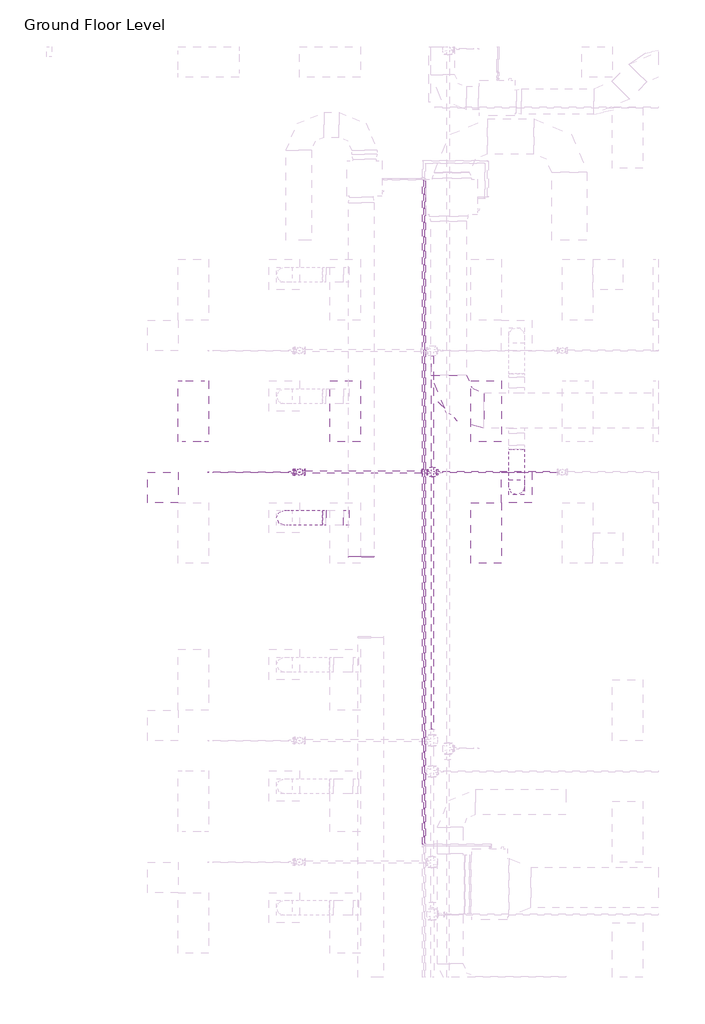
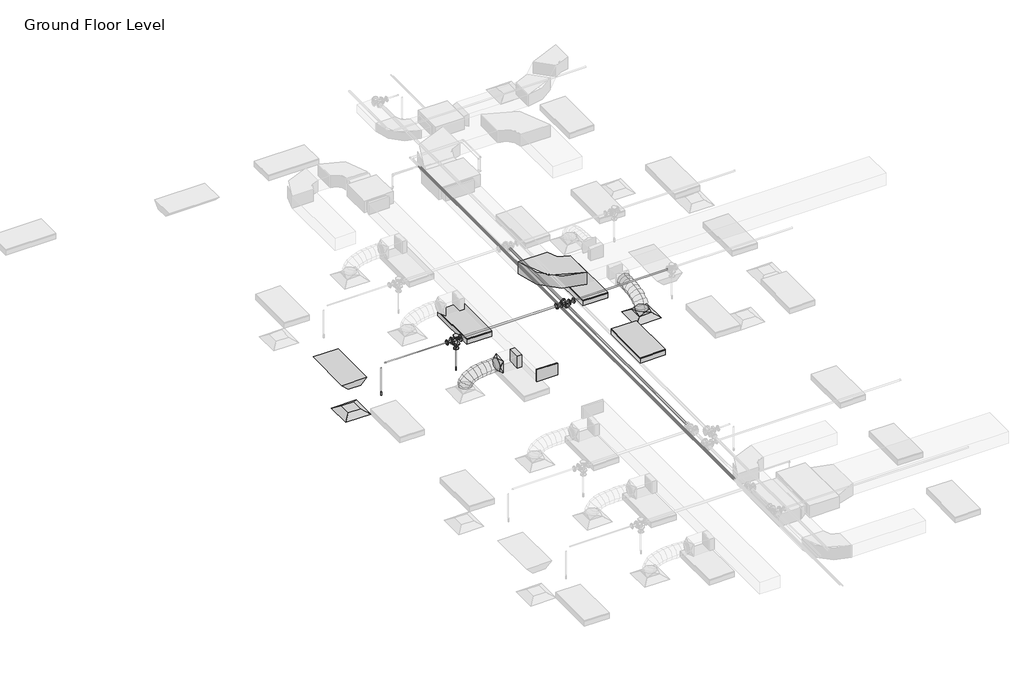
# One storey, part 29 of 74: 9 pipe segments, 6 pipe fittings, 5 duct fittings, 4 light fixtures, 2 air terminals, 2 duct segments, 2 fire suppression terminals.
"""IFC4 building model written with IfcOpenShell, lengths in millimetres."""

from ifc_helpers import new_model, si_unit, point, frame, frame_2d, origin, place, context, project, spatial, circle_curve, ellipse_curve, trimmed, segment, composite_curve, outline, extrude, transform, mapped, element, save
from ifc_brep_helpers import plane_surface, cylinder_surface, advanced_brep
from components import m_return_diffuser_600_x_600_face_300_x_300_connection_ff221211, m_rectangular_elbow_radius_1_w_8a62b27e, m_rectangular_endcap_standard_72d4d00d, m_rectangular_takeoff_standard_2be5eba1, m_rectangular_to_round_transition_angle_45_degree_641efff0, m_sprinkler_dry_pendent_hosted_15_mm_dry_pendent_9bda8e11, m_emergency_recessed_lighting_fixture_600x1200_277_5b10b25d, m_troffer_light_parabolic_rectangular1_0600x1200mm_4_lamp_86473d4a, m_cross_flanged_cs_class_150_standard_46ec961b, m_reducer_flanged_cs_class_150_standard_b6b67c23, m_reducer_flanged_cs_class_150_standard_83138b42, m_reducer_flanged_cs_class_150_standard_dc68ad9d, m_reducer_flanged_cs_class_150_standard_84a20e65, m_tee_round_base_flanged_cs_class_150_standard_ab36f383

model = new_model("IFC4")

# Units and contexts
model_context = context("Model", 3, world=origin())
ifc_project = project(units=[si_unit("LENGTHUNIT", "METRE", prefix="MILLI")], contexts=[model_context])

# Site, building, storey
site = spatial("IfcSite", under=ifc_project)
building = spatial("IfcBuilding", under=site)
storey = spatial("IfcBuildingStorey", under=building, Name="Ground Floor Level", Elevation=900.0)

# Air terminals
placement = place(None, origin())
m_return_diffuser_600_x_600_face_300_x_300_connection_shape = m_return_diffuser_600_x_600_face_300_x_300_connection_ff221211(model_context)
element("IfcAirTerminal", 1, ObjectType="M_Return Diffuser : 600 x 600 Face 300 x 300 Connection", at=placement, inside=storey, context=model_context, shape_type="MappedRepresentation", body=[
    mapped(m_return_diffuser_600_x_600_face_300_x_300_connection_shape, transform((362.7672395, -13664.7846466, 3650.0), x_axis=(1.0, 0.0, 0.0), y_axis=(0.0, 1.0, 0.0), z_axis=(0.0, 0.0, 1.0))),
])
element("IfcAirTerminal", 2, ObjectType="M_Supply Diffuser : 600 x 600 Face 300 x 300 Connection", at=placement, inside=storey, context=model_context, shape_type="MappedRepresentation", body=[
    mapped(m_return_diffuser_600_x_600_face_300_x_300_connection_shape, transform((7352.7672395, -13664.7846466, 3650.0), x_axis=(1.0, 0.0, 0.0), y_axis=(0.0, 1.0, 0.0), z_axis=(0.0, 0.0, 1.0))),
])

# Duct fittings
m_rectangular_elbow_radius_1_w_shape = m_rectangular_elbow_radius_1_w_8a62b27e(model_context)
element("IfcDuctFitting", 3, ObjectType="M_Rectangular Elbow - Radius : 1 W", at=placement, inside=storey, context=model_context, shape_type="MappedRepresentation", body=[
    mapped(m_rectangular_elbow_radius_1_w_shape, transform((6009.9139492, -12149.3358641, 4099.9875), x_axis=(0.0, -0.9999999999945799, -3.2924882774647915e-06), y_axis=(1.0000000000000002, 0.0, 0.0), z_axis=(0.0, -3.2924882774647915e-06, 0.9999999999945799))),
])
m_rectangular_endcap_standard_shape = m_rectangular_endcap_standard_72d4d00d(model_context)
element("IfcDuctFitting", 4, ObjectType="M_Rectangular Endcap : Standard", at=placement, inside=storey, context=model_context, shape_type="MappedRepresentation", body=[
    mapped(m_rectangular_endcap_standard_shape, transform((4282.1581888, -15020.4566353, 4099.9874218), x_axis=(0.0, -0.9999999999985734, -1.689189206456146e-06), y_axis=(1.0, 0.0, 0.0), z_axis=(0.0, -1.689189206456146e-06, 0.9999999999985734))),
])
m_rectangular_takeoff_standard_shape = m_rectangular_takeoff_standard_2be5eba1(model_context)
element("IfcDuctFitting", 5, ObjectType="M_Rectangular Takeoff : Standard", at=placement, inside=storey, context=model_context, shape_type="MappedRepresentation", body=[
    mapped(m_rectangular_takeoff_standard_shape, transform((4032.1581888, -14264.7846466, 4099.9887842), x_axis=(-1.0, 0.0, 0.0), y_axis=(0.0, 1.0, 0.0), z_axis=(0.0, 0.0, -1.0))),
])
m_rectangular_to_round_transition_angle_45_degree_shape = m_rectangular_to_round_transition_angle_45_degree_641efff0(model_context)
element("IfcDuctFitting", 6, ObjectType="M_Rectangular to Round Transition - Angle : 45 Degree", at=placement, inside=storey, context=model_context, shape_type="MappedRepresentation", body=[
    mapped(m_rectangular_to_round_transition_angle_45_degree_shape, transform((3590.1143866, -14264.7846466, 4099.9887842), x_axis=(-1.0, 0.0, 0.0), y_axis=(0.0, -1.0, 0.0), z_axis=(0.0, 0.0, 1.0))),
])
element("IfcDuctFitting", 7, ObjectType="M_Rectangular to Round Transition - Angle : 45 Degree", at=placement, inside=storey, context=model_context, shape_type="MappedRepresentation", body=[
    mapped(m_rectangular_to_round_transition_angle_45_degree_shape, transform((7352.7672395, -13664.7846466, 3751.6), x_axis=(0.0, 0.0, 1.0), y_axis=(-1.0, 0.0, 0.0), z_axis=(0.0, -1.0, 0.0))),
])

# Duct segments
element("IfcDuctSegment", 8, ObjectType="Flex - Round", at=placement, inside=storey, context=model_context, shape_type="AdvancedBrep", body=[
    advanced_brep(
    [(2912.7672395, -14264.7846466, 3826.6), (2762.7672395, -14414.7846466, 3826.6), (2612.7672395, -14264.7846466, 3826.6), (2762.7672395, -14114.7846466, 3826.6), (2912.7672395, -14264.7846466, 3832.2943846), (2762.7672395, -14414.7846466, 3857.9381822), (2612.7672395, -14264.7846466, 3883.5819799), (2762.7672395, -14114.7846466, 3857.9381822), (2913.5207556, -14264.7846466, 3834.4337709), (2779.783483, -14414.7846466, 3906.2507773), (2646.0462104, -14264.7846466, 3978.0677838), (2779.783483, -14114.7846466, 3906.2507773), (2931.1721896, -14264.7846466, 3857.7995724), (2826.9682101, -14414.7846466, 3968.7107998), (2722.7642305, -14264.7846466, 4079.6220272), (2826.9682101, -14114.7846466, 3968.7107998), (2967.4564457, -14264.7846466, 3881.8128947), (2898.5254153, -14414.7846466, 4016.0681503), (2829.5943848, -14264.7846466, 4150.3234058), (2898.5254153, -14114.7846466, 4016.0681503), (3032.2165497, -14264.7846466, 3906.4878092), (2988.6590932, -14414.7846466, 4050.4109116), (2945.1016367, -14264.7846466, 4194.334014), (2988.6590932, -14114.7846466, 4050.4109116), (3118.131028, -14264.7846466, 3926.0360972), (3091.5732386, -14414.7846466, 4073.8271669), (3065.0154491, -14264.7846466, 4221.6182365), (3091.5732386, -14114.7846466, 4073.8271669), (3216.6200238, -14264.7846466, 3939.1004669), (3201.4718459, -14414.7846466, 4088.4049988), (3186.3236681, -14264.7846466, 4237.7095308), (3201.4718459, -14114.7846466, 4088.4049988), (3320.0621185, -14264.7846466, 3946.3892735), (3312.55891, -14414.7846466, 4096.2324904), (3305.0557014, -14264.7846466, 4246.0757073), (3312.55891, -14114.7846466, 4096.2324904), (3421.7286729, -14264.7846466, 3949.4114365), (3419.0384253, -14414.7846466, 4099.3977246), (3416.3481777, -14264.7846466, 4249.3840127), (3419.0384253, -14114.7846466, 4099.3977246), (3516.0371696, -14264.7846466, 3949.9916227), (3515.1143866, -14414.7846466, 4099.9887842), (3514.1916035, -14264.7846466, 4249.9859457), (3515.1143866, -14114.7846466, 4099.9887842)],
    [
        (0, 1, circle_curve(frame((2762.7672395, -14264.7846466, 3826.6), z_axis=(0.0, 0.0, -1.0), x_axis=(1.0, 0.0, 0.0)), 150.0)),
        (1, 2, circle_curve(frame((2762.7672395, -14264.7846466, 3826.6), z_axis=(0.0, 0.0, -1.0), x_axis=(1.0, 0.0, 0.0)), 150.0)),
        (2, 3, circle_curve(frame((2762.7672395, -14264.7846466, 3826.6), z_axis=(0.0, 0.0, -1.0), x_axis=(1.0, 0.0, 0.0)), 150.0)),
        (3, 0, circle_curve(frame((2762.7672395, -14264.7846466, 3826.6), z_axis=(0.0, 0.0, -1.0), x_axis=(1.0, 0.0, 0.0)), 150.0)),
        (0, 4),
        (4, 5, ellipse_curve(frame((2762.7672395, -14264.7846466, 3857.9381822), z_axis=(-0.1685138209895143, 0.0, -0.9856992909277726), x_axis=(0.9856992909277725, 0.0, -0.16851382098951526)), 152.176228, 150.0)),
        (5, 1),
        (5, 6, ellipse_curve(frame((2762.7672395, -14264.7846466, 3857.9381822), z_axis=(-0.1685138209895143, 0.0, -0.9856992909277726), x_axis=(0.9856992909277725, 0.0, -0.16851382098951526)), 152.176228, 150.0)),
        (6, 2),
        (6, 7, ellipse_curve(frame((2762.7672395, -14264.7846466, 3857.9381822), z_axis=(-0.1685138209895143, 0.0, -0.9856992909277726), x_axis=(0.9856992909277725, 0.0, -0.16851382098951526)), 152.176228, 150.0)),
        (7, 3),
        (7, 4, ellipse_curve(frame((2762.7672395, -14264.7846466, 3857.9381822), z_axis=(-0.1685138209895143, 0.0, -0.9856992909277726), x_axis=(0.9856992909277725, 0.0, -0.16851382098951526)), 152.176228, 150.0)),
        (4, 8),
        (8, 9, ellipse_curve(frame((2779.783483, -14264.7846466, 3906.2507773), z_axis=(-0.47310177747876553, 0.0, -0.881007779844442), x_axis=(0.8810077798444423, 0.0, -0.4731017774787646)), 151.800331, 150.0)),
        (9, 5),
        (9, 10, ellipse_curve(frame((2779.783483, -14264.7846466, 3906.2507773), z_axis=(-0.47310177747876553, 0.0, -0.881007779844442), x_axis=(0.8810077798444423, 0.0, -0.4731017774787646)), 151.800331, 150.0)),
        (10, 6),
        (10, 11, ellipse_curve(frame((2779.783483, -14264.7846466, 3906.2507773), z_axis=(-0.47310177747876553, 0.0, -0.881007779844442), x_axis=(0.8810077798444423, 0.0, -0.4731017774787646)), 151.800331, 150.0)),
        (11, 7),
        (11, 8, ellipse_curve(frame((2779.783483, -14264.7846466, 3906.2507773), z_axis=(-0.47310177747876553, 0.0, -0.881007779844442), x_axis=(0.8810077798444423, 0.0, -0.4731017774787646)), 151.800331, 150.0)),
        (8, 12),
        (12, 13, ellipse_curve(frame((2826.9682101, -14264.7846466, 3968.7107998), z_axis=(-0.7288000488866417, 0.0, -0.6847265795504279), x_axis=(0.6847265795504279, 0.0, -0.7288000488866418)), 152.1833424, 150.0)),
        (13, 9),
        (13, 14, ellipse_curve(frame((2826.9682101, -14264.7846466, 3968.7107998), z_axis=(-0.7288000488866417, 0.0, -0.6847265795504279), x_axis=(0.6847265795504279, 0.0, -0.7288000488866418)), 152.1833424, 150.0)),
        (14, 10),
        (14, 15, ellipse_curve(frame((2826.9682101, -14264.7846466, 3968.7107998), z_axis=(-0.7288000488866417, 0.0, -0.6847265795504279), x_axis=(0.6847265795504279, 0.0, -0.7288000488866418)), 152.1833424, 150.0)),
        (15, 11),
        (15, 12, ellipse_curve(frame((2826.9682101, -14264.7846466, 3968.7107998), z_axis=(-0.7288000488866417, 0.0, -0.6847265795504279), x_axis=(0.6847265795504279, 0.0, -0.7288000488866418)), 152.1833424, 150.0)),
        (12, 16),
        (16, 17, ellipse_curve(frame((2898.5254153, -14264.7846466, 4016.0681503), z_axis=(-0.8895962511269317, 0.0, -0.45674775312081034), x_axis=(0.45674775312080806, 0.0, -0.889596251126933)), 150.9170653, 150.0)),
        (17, 13),
        (17, 18, ellipse_curve(frame((2898.5254153, -14264.7846466, 4016.0681503), z_axis=(-0.8895962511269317, 0.0, -0.45674775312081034), x_axis=(0.45674775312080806, 0.0, -0.889596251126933)), 150.9170653, 150.0)),
        (18, 14),
        (18, 19, ellipse_curve(frame((2898.5254153, -14264.7846466, 4016.0681503), z_axis=(-0.8895962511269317, 0.0, -0.45674775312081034), x_axis=(0.45674775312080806, 0.0, -0.889596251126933)), 150.9170653, 150.0)),
        (19, 15),
        (19, 16, ellipse_curve(frame((2898.5254153, -14264.7846466, 4016.0681503), z_axis=(-0.8895962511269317, 0.0, -0.45674775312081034), x_axis=(0.45674775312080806, 0.0, -0.889596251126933)), 150.9170653, 150.0)),
        (16, 20),
        (20, 21, ellipse_curve(frame((2988.6590932, -14264.7846466, 4050.4109116), z_axis=(-0.9571269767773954, 0.0, -0.28966869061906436), x_axis=(0.28966869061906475, 0.0, -0.9571269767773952)), 150.3699153, 150.0)),
        (21, 17),
        (21, 22, ellipse_curve(frame((2988.6590932, -14264.7846466, 4050.4109116), z_axis=(-0.9571269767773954, 0.0, -0.28966869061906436), x_axis=(0.28966869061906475, 0.0, -0.9571269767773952)), 150.3699153, 150.0)),
        (22, 18),
        (22, 23, ellipse_curve(frame((2988.6590932, -14264.7846466, 4050.4109116), z_axis=(-0.9571269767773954, 0.0, -0.28966869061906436), x_axis=(0.28966869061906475, 0.0, -0.9571269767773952)), 150.3699153, 150.0)),
        (23, 19),
        (23, 20, ellipse_curve(frame((2988.6590932, -14264.7846466, 4050.4109116), z_axis=(-0.9571269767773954, 0.0, -0.28966869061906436), x_axis=(0.28966869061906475, 0.0, -0.9571269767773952)), 150.3699153, 150.0)),
        (20, 24),
        (24, 25, ellipse_curve(frame((3091.5732386, -14264.7846466, 4073.8271669), z_axis=(-0.9842350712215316, 0.0, -0.17686527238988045), x_axis=(0.1768652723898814, 0.0, -0.9842350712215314)), 150.1583046, 150.0)),
        (25, 21),
        (25, 26, ellipse_curve(frame((3091.5732386, -14264.7846466, 4073.8271669), z_axis=(-0.9842350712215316, 0.0, -0.17686527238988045), x_axis=(0.1768652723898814, 0.0, -0.9842350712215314)), 150.1583046, 150.0)),
        (26, 22),
        (26, 27, ellipse_curve(frame((3091.5732386, -14264.7846466, 4073.8271669), z_axis=(-0.9842350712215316, 0.0, -0.17686527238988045), x_axis=(0.1768652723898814, 0.0, -0.9842350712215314)), 150.1583046, 150.0)),
        (27, 23),
        (27, 24, ellipse_curve(frame((3091.5732386, -14264.7846466, 4073.8271669), z_axis=(-0.9842350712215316, 0.0, -0.17686527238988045), x_axis=(0.1768652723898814, 0.0, -0.9842350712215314)), 150.1583046, 150.0)),
        (24, 28),
        (28, 29, ellipse_curve(frame((3201.4718459, -14264.7846466, 4088.4049988), z_axis=(-0.994892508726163, 0.0, -0.10094006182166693), x_axis=(0.10094006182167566, 0.0, -0.9948925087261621)), 150.0710184, 150.0)),
        (29, 25),
        (29, 30, ellipse_curve(frame((3201.4718459, -14264.7846466, 4088.4049988), z_axis=(-0.994892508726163, 0.0, -0.10094006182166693), x_axis=(0.10094006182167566, 0.0, -0.9948925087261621)), 150.0710184, 150.0)),
        (30, 26),
        (30, 31, ellipse_curve(frame((3201.4718459, -14264.7846466, 4088.4049988), z_axis=(-0.994892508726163, 0.0, -0.10094006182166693), x_axis=(0.10094006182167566, 0.0, -0.9948925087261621)), 150.0710184, 150.0)),
        (31, 27),
        (31, 28, ellipse_curve(frame((3201.4718459, -14264.7846466, 4088.4049988), z_axis=(-0.994892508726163, 0.0, -0.10094006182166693), x_axis=(0.10094006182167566, 0.0, -0.9948925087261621)), 150.0710184, 150.0)),
        (28, 32),
        (32, 33, ellipse_curve(frame((3312.55891, -14264.7846466, 4096.2324904), z_axis=(-0.998748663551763, 0.0, -0.05001106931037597), x_axis=(0.050011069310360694, 0.0, -0.998748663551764)), 150.0309561, 150.0)),
        (33, 29),
        (33, 34, ellipse_curve(frame((3312.55891, -14264.7846466, 4096.2324904), z_axis=(-0.998748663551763, 0.0, -0.05001106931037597), x_axis=(0.050011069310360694, 0.0, -0.998748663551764)), 150.0309561, 150.0)),
        (34, 30),
        (34, 35, ellipse_curve(frame((3312.55891, -14264.7846466, 4096.2324904), z_axis=(-0.998748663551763, 0.0, -0.05001106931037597), x_axis=(0.050011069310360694, 0.0, -0.998748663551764)), 150.0309561, 150.0)),
        (35, 31),
        (35, 32, ellipse_curve(frame((3312.55891, -14264.7846466, 4096.2324904), z_axis=(-0.998748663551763, 0.0, -0.05001106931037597), x_axis=(0.050011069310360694, 0.0, -0.998748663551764)), 150.0309561, 150.0)),
        (32, 36),
        (36, 37, ellipse_curve(frame((3419.0384253, -14264.7846466, 4099.3977246), z_axis=(-0.9998391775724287, 0.0, -0.01793373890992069), x_axis=(0.017933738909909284, 1.8193051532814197e-12, -0.9998391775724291)), 150.0104131, 150.0)),
        (37, 33),
        (37, 38, ellipse_curve(frame((3419.0384253, -14264.7846466, 4099.3977246), z_axis=(-0.9998391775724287, 0.0, -0.01793373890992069), x_axis=(0.017933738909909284, 1.8193051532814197e-12, -0.9998391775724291)), 150.0104131, 150.0)),
        (38, 34),
        (38, 39, ellipse_curve(frame((3419.0384253, -14264.7846466, 4099.3977246), z_axis=(-0.9998391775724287, 0.0, -0.01793373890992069), x_axis=(0.017933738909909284, 1.8193051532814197e-12, -0.9998391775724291)), 150.0104131, 150.0)),
        (39, 35),
        (39, 36, ellipse_curve(frame((3419.0384253, -14264.7846466, 4099.3977246), z_axis=(-0.9998391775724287, 0.0, -0.01793373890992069), x_axis=(0.017933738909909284, 1.8193051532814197e-12, -0.9998391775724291)), 150.0104131, 150.0)),
        (36, 40),
        (40, 41, circle_curve(frame((3515.1143866, -14264.7846466, 4099.9887842), z_axis=(-0.9999810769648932, 0.0, -0.0061518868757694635), x_axis=(0.0061518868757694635, 0.0, -0.9999810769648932)), 150.0)),
        (41, 37),
        (41, 42, circle_curve(frame((3515.1143866, -14264.7846466, 4099.9887842), z_axis=(-0.9999810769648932, 0.0, -0.0061518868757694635), x_axis=(0.0061518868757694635, 0.0, -0.9999810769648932)), 150.0)),
        (42, 38),
        (42, 43, circle_curve(frame((3515.1143866, -14264.7846466, 4099.9887842), z_axis=(-0.9999810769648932, 0.0, -0.0061518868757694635), x_axis=(0.0061518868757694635, 0.0, -0.9999810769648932)), 150.0)),
        (43, 39),
        (43, 40, circle_curve(frame((3515.1143866, -14264.7846466, 4099.9887842), z_axis=(-0.9999810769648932, 0.0, -0.0061518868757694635), x_axis=(0.0061518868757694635, 0.0, -0.9999810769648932)), 150.0)),
    ],
    [
        plane_surface(frame((2762.7672395, -14414.7846466, 3826.6), z_axis=(0.0, 0.0, -1.0), x_axis=(1.0, 0.0, 0.0))),
        cylinder_surface(frame((2762.7672395, -14264.7846466, 3826.6), z_axis=(0.0, 0.0, -1.0), x_axis=(1.0, 0.0, 0.0)), 150.0),
        cylinder_surface(frame((2762.7672395, -14264.7846466, 3857.9381822), z_axis=(-0.33220790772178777, 0.0, -0.9432061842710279), x_axis=(0.9432061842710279, 0.0, -0.33220790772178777)), 150.0),
        cylinder_surface(frame((2779.783483, -14264.7846466, 3906.2507773), z_axis=(-0.6027738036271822, 0.0, -0.7979121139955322), x_axis=(0.7979121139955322, 0.0, -0.6027738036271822)), 150.0),
        cylinder_surface(frame((2826.9682101, -14264.7846466, 3968.7107998), z_axis=(-0.8339144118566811, 0.0, -0.5518937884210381), x_axis=(0.5518937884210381, 0.0, -0.8339144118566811)), 150.0),
        cylinder_surface(frame((2898.5254153, -14264.7846466, 4016.0681503), z_axis=(-0.9344666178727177, 0.0, -0.35605075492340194), x_axis=(0.35605075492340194, 0.0, -0.9344666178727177)), 150.0),
        cylinder_surface(frame((2988.6590932, -14264.7846466, 4050.4109116), z_axis=(-0.9750782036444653, 0.0, -0.22186143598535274), x_axis=(0.22186143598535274, 0.0, -0.9750782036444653)), 150.0),
        cylinder_surface(frame((3091.5732386, -14264.7846466, 4073.8271669), z_axis=(-0.9913166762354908, 0.0, -0.1314961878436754), x_axis=(0.1314961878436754, 0.0, -0.9913166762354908)), 150.0),
        cylinder_surface(frame((3201.4718459, -14264.7846466, 4088.4049988), z_axis=(-0.9975267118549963, 0.0, -0.07028839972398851), x_axis=(0.07028839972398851, 0.0, -0.9975267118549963)), 150.0),
        cylinder_surface(frame((3312.55891, -14264.7846466, 4096.2324904), z_axis=(-0.9995584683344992, 0.0, -0.02971310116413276), x_axis=(0.02971310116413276, 0.0, -0.9995584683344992)), 150.0),
        cylinder_surface(frame((3419.0384253, -14264.7846466, 4099.3977246), z_axis=(-0.9999810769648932, 0.0, -0.0061518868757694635), x_axis=(0.0061518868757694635, 0.0, -0.9999810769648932)), 150.0),
        plane_surface(frame((3515.1143866, -14414.7846466, 4099.9887842), z_axis=(0.9999810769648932, 0.0, 0.006151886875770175), x_axis=(0.006151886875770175, -3.666400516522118e-12, -0.9999810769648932))),
    ],
    [
        (0, [[1, 2, 3, 4]]),
        (1, [[-1, 5, 6, 7]]),
        (1, [[-2, -7, 8, 9]]),
        (1, [[-3, -9, 10, 11]]),
        (1, [[-4, -11, 12, -5]]),
        (2, [[-6, 13, 14, 15]]),
        (2, [[-8, -15, 16, 17]]),
        (2, [[-10, -17, 18, 19]]),
        (2, [[-12, -19, 20, -13]]),
        (3, [[-14, 21, 22, 23]]),
        (3, [[-16, -23, 24, 25]]),
        (3, [[-18, -25, 26, 27]]),
        (3, [[-20, -27, 28, -21]]),
        (4, [[-22, 29, 30, 31]]),
        (4, [[-24, -31, 32, 33]]),
        (4, [[-26, -33, 34, 35]]),
        (4, [[-28, -35, 36, -29]]),
        (5, [[-30, 37, 38, 39]]),
        (5, [[-32, -39, 40, 41]]),
        (5, [[-34, -41, 42, 43]]),
        (5, [[-36, -43, 44, -37]]),
        (6, [[-38, 45, 46, 47]]),
        (6, [[-40, -47, 48, 49]]),
        (6, [[-42, -49, 50, 51]]),
        (6, [[-44, -51, 52, -45]]),
        (7, [[-46, 53, 54, 55]]),
        (7, [[-48, -55, 56, 57]]),
        (7, [[-50, -57, 58, 59]]),
        (7, [[-52, -59, 60, -53]]),
        (8, [[-54, 61, 62, 63]]),
        (8, [[-56, -63, 64, 65]]),
        (8, [[-58, -65, 66, 67]]),
        (8, [[-60, -67, 68, -61]]),
        (9, [[-62, 69, 70, 71]]),
        (9, [[-64, -71, 72, 73]]),
        (9, [[-66, -73, 74, 75]]),
        (9, [[-68, -75, 76, -69]]),
        (10, [[-70, 77, 78, 79]]),
        (10, [[-72, -79, 80, 81]]),
        (10, [[-74, -81, 82, 83]]),
        (10, [[-76, -83, 84, -77]]),
        (11, [[-84, -82, -80, -78]]),
    ],
),
])
element("IfcDuctSegment", 9, ObjectType="Flex - Round", at=placement, inside=storey, context=model_context, shape_type="AdvancedBrep", body=[
    advanced_brep(
    [(7502.7672395, -13664.7846466, 3826.6), (7352.7672395, -13814.7846466, 3826.6), (7202.7672395, -13664.7846466, 3826.6), (7352.7672395, -13514.7846466, 3826.6), (7502.7672395, -13664.7846466, 3857.9382361), (7352.7672395, -13814.7846466, 3883.5820996), (7202.7672395, -13664.7846466, 3857.9382361), (7352.7672395, -13514.7846466, 3832.2943726), (7502.7672395, -13647.7683675, 3906.2508008), (7352.7672395, -13781.5055592, 3978.0679769), (7202.7672395, -13647.7683675, 3906.2508008), (7352.7672395, -13514.0311758, 3834.4336246), (7502.7672395, -13600.5835435, 3968.710741), (7352.7672395, -13704.7873032, 4079.6221903), (7202.7672395, -13600.5835435, 3968.710741), (7352.7672395, -13496.3797837, 3857.7992917), (7502.7672395, -13529.0261948, 4016.0679312), (7352.7672395, -13597.9568789, 4150.3233665), (7202.7672395, -13529.0261948, 4016.0679312), (7352.7672395, -13460.0955107, 3881.8124958), (7502.7672395, -13438.8923417, 4050.4104815), (7352.7672395, -13482.4494195, 4194.3336978), (7202.7672395, -13438.8923417, 4050.4104815), (7352.7672395, -13395.3352638, 3906.4872652), (7502.7672395, -13335.9780043, 4073.8265025), (7352.7672395, -13362.5354348, 4221.6176356), (7202.7672395, -13335.9780043, 4073.8265025), (7352.7672395, -13309.4205737, 3926.0353694), (7502.7672395, -13226.0792027, 4088.4041045), (7352.7672395, -13241.2270687, 4237.7086671), (7202.7672395, -13226.0792027, 4088.4041045), (7352.7672395, -13210.9313368, 3939.0995418), (7502.7672395, -13114.9919573, 4096.2313978), (7352.7672395, -13122.4949231, 4246.074626), (7202.7672395, -13114.9919573, 4096.2313978), (7352.7672395, -13107.4889914, 3946.3881695), (7502.7672395, -13008.5122881, 4099.3964928), (7352.7672395, -13011.2023931, 4249.3827828), (7202.7672395, -13008.5122881, 4099.3964928), (7352.7672395, -13005.8221831, 3949.4102029), (7502.7672395, -12912.4362153, 4099.9875), (7352.7672395, -12911.5135153, 3949.9903379), (7202.7672395, -12912.4362153, 4099.9875), (7352.7672395, -12913.3589154, 4249.9846621)],
    [
        (0, 1, circle_curve(frame((7352.7672395, -13664.7846466, 3826.6), z_axis=(0.0, 0.0, -1.0), x_axis=(1.0, 0.0, 0.0)), 150.0)),
        (1, 2, circle_curve(frame((7352.7672395, -13664.7846466, 3826.6), z_axis=(0.0, 0.0, -1.0), x_axis=(1.0, 0.0, 0.0)), 150.0)),
        (2, 3, circle_curve(frame((7352.7672395, -13664.7846466, 3826.6), z_axis=(0.0, 0.0, -1.0), x_axis=(1.0, 0.0, 0.0)), 150.0)),
        (3, 0, circle_curve(frame((7352.7672395, -13664.7846466, 3826.6), z_axis=(0.0, 0.0, -1.0), x_axis=(1.0, 0.0, 0.0)), 150.0)),
        (0, 4),
        (4, 5, ellipse_curve(frame((7352.7672395, -13664.7846466, 3857.9382361), z_axis=(0.0, -0.16851424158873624, -0.9856992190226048), x_axis=(0.0, 0.9856992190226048, -0.16851424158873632)), 152.1762391, 150.0)),
        (5, 1),
        (5, 6, ellipse_curve(frame((7352.7672395, -13664.7846466, 3857.9382361), z_axis=(0.0, -0.16851424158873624, -0.9856992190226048), x_axis=(0.0, 0.9856992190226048, -0.16851424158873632)), 152.1762391, 150.0)),
        (6, 2),
        (6, 7, ellipse_curve(frame((7352.7672395, -13664.7846466, 3857.9382361), z_axis=(0.0, -0.16851424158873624, -0.9856992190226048), x_axis=(0.0, 0.9856992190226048, -0.16851424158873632)), 152.1762391, 150.0)),
        (7, 3),
        (7, 4, ellipse_curve(frame((7352.7672395, -13664.7846466, 3857.9382361), z_axis=(0.0, -0.16851424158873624, -0.9856992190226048), x_axis=(0.0, 0.9856992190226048, -0.16851424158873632)), 152.1762391, 150.0)),
        (4, 8),
        (8, 9, ellipse_curve(frame((7352.7672395, -13647.7683675, 3906.2508008), z_axis=(0.0, -0.4731028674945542, -0.8810071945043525), x_axis=(0.0, 0.8810071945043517, -0.47310286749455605)), 151.80034, 150.0)),
        (9, 5),
        (9, 10, ellipse_curve(frame((7352.7672395, -13647.7683675, 3906.2508008), z_axis=(0.0, -0.4731028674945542, -0.8810071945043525), x_axis=(0.0, 0.8810071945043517, -0.47310286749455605)), 151.80034, 150.0)),
        (10, 6),
        (10, 11, ellipse_curve(frame((7352.7672395, -13647.7683675, 3906.2508008), z_axis=(0.0, -0.4731028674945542, -0.8810071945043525), x_axis=(0.0, 0.8810071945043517, -0.47310286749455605)), 151.80034, 150.0)),
        (11, 7),
        (11, 8, ellipse_curve(frame((7352.7672395, -13647.7683675, 3906.2508008), z_axis=(0.0, -0.4731028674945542, -0.8810071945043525), x_axis=(0.0, 0.8810071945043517, -0.47310286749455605)), 151.80034, 150.0)),
        (8, 12),
        (12, 13, ellipse_curve(frame((7352.7672395, -13600.5835435, 3968.710741), z_axis=(0.0, -0.728801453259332, -0.6847250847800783), x_axis=(0.0, 0.6847250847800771, -0.7288014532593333)), 152.1833536, 150.0)),
        (13, 9),
        (13, 14, ellipse_curve(frame((7352.7672395, -13600.5835435, 3968.710741), z_axis=(0.0, -0.728801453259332, -0.6847250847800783), x_axis=(0.0, 0.6847250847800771, -0.7288014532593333)), 152.1833536, 150.0)),
        (14, 10),
        (14, 15, ellipse_curve(frame((7352.7672395, -13600.5835435, 3968.710741), z_axis=(0.0, -0.728801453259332, -0.6847250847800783), x_axis=(0.0, 0.6847250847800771, -0.7288014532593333)), 152.1833536, 150.0)),
        (15, 11),
        (15, 12, ellipse_curve(frame((7352.7672395, -13600.5835435, 3968.710741), z_axis=(0.0, -0.728801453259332, -0.6847250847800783), x_axis=(0.0, 0.6847250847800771, -0.7288014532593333)), 152.1833536, 150.0)),
        (12, 16),
        (16, 17, ellipse_curve(frame((7352.7672395, -13529.0261948, 4016.0679312), z_axis=(0.0, -0.889597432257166, -0.45674545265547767), x_axis=(0.0, 0.4567454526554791, -0.8895974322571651)), 150.9170671, 150.0)),
        (17, 13),
        (17, 18, ellipse_curve(frame((7352.7672395, -13529.0261948, 4016.0679312), z_axis=(0.0, -0.889597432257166, -0.45674545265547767), x_axis=(0.0, 0.4567454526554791, -0.8895974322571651)), 150.9170671, 150.0)),
        (18, 14),
        (18, 19, ellipse_curve(frame((7352.7672395, -13529.0261948, 4016.0679312), z_axis=(0.0, -0.889597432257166, -0.45674545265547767), x_axis=(0.0, 0.4567454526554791, -0.8895974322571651)), 150.9170671, 150.0)),
        (19, 15),
        (19, 16, ellipse_curve(frame((7352.7672395, -13529.0261948, 4016.0679312), z_axis=(0.0, -0.889597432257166, -0.45674545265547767), x_axis=(0.0, 0.4567454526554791, -0.8895974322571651)), 150.9170671, 150.0)),
        (16, 20),
        (20, 21, ellipse_curve(frame((7352.7672395, -13438.8923417, 4050.4104815), z_axis=(0.0, -0.9571277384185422, -0.28966617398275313), x_axis=(0.0, 0.28966617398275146, -0.9571277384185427)), 150.3699146, 150.0)),
        (21, 17),
        (21, 22, ellipse_curve(frame((7352.7672395, -13438.8923417, 4050.4104815), z_axis=(0.0, -0.9571277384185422, -0.28966617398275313), x_axis=(0.0, 0.28966617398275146, -0.9571277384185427)), 150.3699146, 150.0)),
        (22, 18),
        (22, 23, ellipse_curve(frame((7352.7672395, -13438.8923417, 4050.4104815), z_axis=(0.0, -0.9571277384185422, -0.28966617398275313), x_axis=(0.0, 0.28966617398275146, -0.9571277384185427)), 150.3699146, 150.0)),
        (23, 19),
        (23, 20, ellipse_curve(frame((7352.7672395, -13438.8923417, 4050.4104815), z_axis=(0.0, -0.9571277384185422, -0.28966617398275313), x_axis=(0.0, 0.28966617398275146, -0.9571277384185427)), 150.3699146, 150.0)),
        (20, 24),
        (24, 25, ellipse_curve(frame((7352.7672395, -13335.9780043, 4073.8265025), z_axis=(0.0, -0.9842355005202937, -0.17686288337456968), x_axis=(0.0, 0.17686288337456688, -0.9842355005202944)), 150.1583036, 150.0)),
        (25, 21),
        (25, 26, ellipse_curve(frame((7352.7672395, -13335.9780043, 4073.8265025), z_axis=(0.0, -0.9842355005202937, -0.17686288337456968), x_axis=(0.0, 0.17686288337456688, -0.9842355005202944)), 150.1583036, 150.0)),
        (26, 22),
        (26, 27, ellipse_curve(frame((7352.7672395, -13335.9780043, 4073.8265025), z_axis=(0.0, -0.9842355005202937, -0.17686288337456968), x_axis=(0.0, 0.17686288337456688, -0.9842355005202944)), 150.1583036, 150.0)),
        (27, 23),
        (27, 24, ellipse_curve(frame((7352.7672395, -13335.9780043, 4073.8265025), z_axis=(0.0, -0.9842355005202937, -0.17686288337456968), x_axis=(0.0, 0.17686288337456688, -0.9842355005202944)), 150.1583036, 150.0)),
        (24, 28),
        (28, 29, ellipse_curve(frame((7352.7672395, -13226.0792027, 4088.4041045), z_axis=(0.0, -0.9948927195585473, -0.10093798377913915), x_axis=(0.0, 0.10093798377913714, -0.9948927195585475)), 150.0710174, 150.0)),
        (29, 25),
        (29, 30, ellipse_curve(frame((7352.7672395, -13226.0792027, 4088.4041045), z_axis=(0.0, -0.9948927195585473, -0.10093798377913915), x_axis=(0.0, 0.10093798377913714, -0.9948927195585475)), 150.0710174, 150.0)),
        (30, 26),
        (30, 31, ellipse_curve(frame((7352.7672395, -13226.0792027, 4088.4041045), z_axis=(0.0, -0.9948927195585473, -0.10093798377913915), x_axis=(0.0, 0.10093798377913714, -0.9948927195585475)), 150.0710174, 150.0)),
        (31, 27),
        (31, 28, ellipse_curve(frame((7352.7672395, -13226.0792027, 4088.4041045), z_axis=(0.0, -0.9948927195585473, -0.10093798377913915), x_axis=(0.0, 0.10093798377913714, -0.9948927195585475)), 150.0710174, 150.0)),
        (28, 32),
        (32, 33, ellipse_curve(frame((7352.7672395, -13114.9919573, 4096.2313978), z_axis=(0.0, -0.9987487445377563, -0.050009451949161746), x_axis=(0.0, 0.05000945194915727, -0.9987487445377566)), 150.0309553, 150.0)),
        (33, 29),
        (33, 34, ellipse_curve(frame((7352.7672395, -13114.9919573, 4096.2313978), z_axis=(0.0, -0.9987487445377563, -0.050009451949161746), x_axis=(0.0, 0.05000945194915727, -0.9987487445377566)), 150.0309553, 150.0)),
        (34, 30),
        (34, 35, ellipse_curve(frame((7352.7672395, -13114.9919573, 4096.2313978), z_axis=(0.0, -0.9987487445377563, -0.050009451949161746), x_axis=(0.0, 0.05000945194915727, -0.9987487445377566)), 150.0309553, 150.0)),
        (35, 31),
        (35, 32, ellipse_curve(frame((7352.7672395, -13114.9919573, 4096.2313978), z_axis=(0.0, -0.9987487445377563, -0.050009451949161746), x_axis=(0.0, 0.05000945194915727, -0.9987487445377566)), 150.0309553, 150.0)),
        (32, 36),
        (36, 37, ellipse_curve(frame((7352.7672395, -13008.5122881, 4099.3964928), z_axis=(0.0, -0.9998391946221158, -0.017932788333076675), x_axis=(0.0, 0.01793278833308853, -0.9998391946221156)), 150.0104124, 150.0)),
        (37, 33),
        (37, 38, ellipse_curve(frame((7352.7672395, -13008.5122881, 4099.3964928), z_axis=(0.0, -0.9998391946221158, -0.017932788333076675), x_axis=(0.0, 0.01793278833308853, -0.9998391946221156)), 150.0104124, 150.0)),
        (38, 34),
        (38, 39, ellipse_curve(frame((7352.7672395, -13008.5122881, 4099.3964928), z_axis=(0.0, -0.9998391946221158, -0.017932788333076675), x_axis=(0.0, 0.01793278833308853, -0.9998391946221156)), 150.0104124, 150.0)),
        (39, 35),
        (39, 36, ellipse_curve(frame((7352.7672395, -13008.5122881, 4099.3964928), z_axis=(0.0, -0.9998391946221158, -0.017932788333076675), x_axis=(0.0, 0.01793278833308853, -0.9998391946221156)), 150.0104124, 150.0)),
        (40, 41, circle_curve(frame((7352.7672395, -12912.4362153, 4099.9875), z_axis=(0.0, 0.9999810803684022, 0.0061513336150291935), x_axis=(1.0, 0.0, 0.0)), 150.0)),
        (41, 42, circle_curve(frame((7352.7672395, -12912.4362153, 4099.9875), z_axis=(0.0, 0.9999810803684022, 0.0061513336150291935), x_axis=(1.0, 0.0, 0.0)), 150.0)),
        (42, 43, circle_curve(frame((7352.7672395, -12912.4362153, 4099.9875), z_axis=(0.0, 0.9999810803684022, 0.0061513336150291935), x_axis=(1.0, 0.0, 0.0)), 150.0)),
        (43, 40, circle_curve(frame((7352.7672395, -12912.4362153, 4099.9875), z_axis=(0.0, 0.9999810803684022, 0.0061513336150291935), x_axis=(1.0, 0.0, 0.0)), 150.0)),
        (36, 40),
        (43, 37),
        (42, 38),
        (41, 39),
    ],
    [
        plane_surface(frame((7352.7672395, -13814.7846466, 3826.6), z_axis=(0.0, 0.0, -1.0), x_axis=(1.0, 0.0, 0.0))),
        cylinder_surface(frame((7352.7672395, -13664.7846466, 3826.6), z_axis=(0.0, 0.0, -1.0), x_axis=(1.0, 0.0, 0.0)), 150.0),
        cylinder_surface(frame((7352.7672395, -13664.7846466, 3857.9382361), z_axis=(0.0, -0.3322087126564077, -0.943205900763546), x_axis=(1.0, 0.0, 0.0)), 150.0),
        cylinder_surface(frame((7352.7672395, -13647.7683675, 3906.2508008), z_axis=(0.0, -0.6027750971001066, -0.797911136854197), x_axis=(1.0, 0.0, 0.0)), 150.0),
        cylinder_surface(frame((7352.7672395, -13600.5835435, 3968.710741), z_axis=(0.0, -0.8339157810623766, -0.5518917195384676), x_axis=(1.0, 0.0, 0.0)), 150.0),
        cylinder_surface(frame((7352.7672395, -13529.0261948, 4016.0679312), z_axis=(0.0, -0.9344675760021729, -0.3560482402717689), x_axis=(1.0, 0.0, 0.0)), 150.0),
        cylinder_surface(frame((7352.7672395, -13438.8923417, 4050.4104815), z_axis=(0.0, -0.9750787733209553, -0.2218589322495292), x_axis=(1.0, 0.0, 0.0)), 150.0),
        cylinder_surface(frame((7352.7672395, -13335.9780043, 4073.8265025), z_axis=(0.0, -0.9913169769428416, -0.13149392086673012), x_axis=(1.0, 0.0, 0.0)), 150.0),
        cylinder_surface(frame((7352.7672395, -13226.0792027, 4088.4041045), z_axis=(0.0, -0.9975268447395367, -0.07028651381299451), x_axis=(1.0, 0.0, 0.0)), 150.0),
        cylinder_surface(frame((7352.7672395, -13114.9919573, 4096.2313978), z_axis=(0.0, -0.999558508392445, -0.02971175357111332), x_axis=(1.0, 0.0, 0.0)), 150.0),
        plane_surface(frame((7352.7672395, -12913.3589154, 4249.9846621), z_axis=(0.0, 0.9999810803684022, 0.006151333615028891), x_axis=(1.0, 0.0, 0.0))),
        cylinder_surface(frame((7352.7672395, -13008.5122881, 4099.3964928), z_axis=(0.0, -0.9999810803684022, -0.0061513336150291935), x_axis=(1.0, 0.0, 0.0)), 150.0),
    ],
    [
        (0, [[1, 2, 3, 4]]),
        (1, [[-1, 5, 6, 7]]),
        (1, [[-2, -7, 8, 9]]),
        (1, [[-3, -9, 10, 11]]),
        (1, [[-4, -11, 12, -5]]),
        (2, [[-6, 13, 14, 15]]),
        (2, [[-8, -15, 16, 17]]),
        (2, [[-10, -17, 18, 19]]),
        (2, [[-12, -19, 20, -13]]),
        (3, [[-14, 21, 22, 23]]),
        (3, [[-16, -23, 24, 25]]),
        (3, [[-18, -25, 26, 27]]),
        (3, [[-20, -27, 28, -21]]),
        (4, [[-22, 29, 30, 31]]),
        (4, [[-24, -31, 32, 33]]),
        (4, [[-26, -33, 34, 35]]),
        (4, [[-28, -35, 36, -29]]),
        (5, [[-30, 37, 38, 39]]),
        (5, [[-32, -39, 40, 41]]),
        (5, [[-34, -41, 42, 43]]),
        (5, [[-36, -43, 44, -37]]),
        (6, [[-38, 45, 46, 47]]),
        (6, [[-40, -47, 48, 49]]),
        (6, [[-42, -49, 50, 51]]),
        (6, [[-44, -51, 52, -45]]),
        (7, [[-46, 53, 54, 55]]),
        (7, [[-48, -55, 56, 57]]),
        (7, [[-50, -57, 58, 59]]),
        (7, [[-52, -59, 60, -53]]),
        (8, [[-54, 61, 62, 63]]),
        (8, [[-56, -63, 64, 65]]),
        (8, [[-58, -65, 66, 67]]),
        (8, [[-60, -67, 68, -61]]),
        (9, [[-62, 69, 70, 71]]),
        (9, [[-64, -71, 72, 73]]),
        (9, [[-66, -73, 74, 75]]),
        (9, [[-68, -75, 76, -69]]),
        (10, [[77, 78, 79, 80]]),
        (11, [[-70, 81, -80, 82]]),
        (11, [[-72, -82, -79, 83]]),
        (11, [[-74, -83, -78, 84]]),
        (11, [[-76, -84, -77, -81]]),
    ],
),
])

# Fire suppression terminals
m_sprinkler_dry_pendent_hosted_15_mm_dry_pendent_shape = m_sprinkler_dry_pendent_hosted_15_mm_dry_pendent_9bda8e11(model_context)
element("IfcFireSuppressionTerminal", 10, ObjectType="M_Sprinkler - Dry - Pendent - Hosted : 15 mm Dry Pendent", at=placement, inside=storey, context=model_context, shape_type="MappedRepresentation", body=[
    mapped(m_sprinkler_dry_pendent_hosted_15_mm_dry_pendent_shape, transform((3062.7672395, -13364.7846466, 3650.0), x_axis=(1.0, 0.0, 0.0), y_axis=(0.0, -1.0, 0.0), z_axis=(0.0, 0.0, -1.0))),
])
element("IfcFireSuppressionTerminal", 11, ObjectType="M_Sprinkler - Dry - Pendent - Hosted : 15 mm Dry Pendent", at=placement, inside=storey, context=model_context, shape_type="MappedRepresentation", body=[
    mapped(m_sprinkler_dry_pendent_hosted_15_mm_dry_pendent_shape, transform((1262.7672395, -13364.7846466, 3650.0), x_axis=(1.0, 0.0, 0.0), y_axis=(0.0, -1.0, 0.0), z_axis=(0.0, 0.0, -1.0))),
])

# Light fixtures
m_emergency_recessed_lighting_fixture_600x1200_277_shape = m_emergency_recessed_lighting_fixture_600x1200_277_5b10b25d(model_context)
element("IfcLightFixture", 12, ObjectType="M_Emergency Recessed Lighting Fixture : 600x1200 - 277", at=placement, inside=storey, context=model_context, shape_type="MappedRepresentation", body=[
    mapped(m_emergency_recessed_lighting_fixture_600x1200_277_shape, transform((662.7672395, -12764.7846466, 3650.0), x_axis=(0.0, 1.0, 0.0), y_axis=(-1.0, 0.0, 0.0), z_axis=(0.0, 0.0, 1.0))),
])
m_troffer_light_parabolic_rectangular1_0600x1200mm_4_lamp_shape = m_troffer_light_parabolic_rectangular1_0600x1200mm_4_lamp_86473d4a(model_context)
element("IfcLightFixture", 13, ObjectType="M_Troffer Light - Parabolic Rectangular1 : 0600x1200mm(4 Lamp) - 277V 2", at=placement, inside=storey, context=model_context, shape_type="MappedRepresentation", body=[
    mapped(m_troffer_light_parabolic_rectangular1_0600x1200mm_4_lamp_shape, transform((6693.3013074, -12146.081145, 3650.0), x_axis=(0.0, 1.0, 0.0), y_axis=(-1.0, 0.0, 0.0), z_axis=(0.0, 0.0, 1.0))),
])
element("IfcLightFixture", 14, ObjectType="M_Troffer Light - Parabolic Rectangular1 : 0600x1200mm(4 Lamp) - 277V 2", at=placement, inside=storey, context=model_context, shape_type="MappedRepresentation", body=[
    mapped(m_troffer_light_parabolic_rectangular1_0600x1200mm_4_lamp_shape, transform((6693.3013074, -14546.081145, 3650.0), x_axis=(0.0, 1.0, 0.0), y_axis=(-1.0, 0.0, 0.0), z_axis=(0.0, 0.0, 1.0))),
])
element("IfcLightFixture", 15, ObjectType="M_Troffer Light - Parabolic Rectangular1 : 0600x1200mm(4 Lamp) - 277V 2", at=placement, inside=storey, context=model_context, shape_type="MappedRepresentation", body=[
    mapped(m_troffer_light_parabolic_rectangular1_0600x1200mm_4_lamp_shape, transform((3903.3013074, -12146.081145, 3650.0), x_axis=(0.0, 1.0, 0.0), y_axis=(-1.0, 0.0, 0.0), z_axis=(0.0, 0.0, 1.0))),
])

# Pipe fittings
m_cross_flanged_cs_class_150_standard_shape = m_cross_flanged_cs_class_150_standard_46ec961b(model_context)
element("IfcPipeFitting", 16, ObjectType="M_Cross - Flanged - CS - Class 150 : Standard", at=placement, inside=storey, context=model_context, shape_type="MappedRepresentation", body=[
    mapped(m_cross_flanged_cs_class_150_standard_shape, transform((5684.6174894, -13364.7846466, 4347.5), x_axis=(0.0, -1.0, 0.0), y_axis=(-1.0, 0.0, 0.0), z_axis=(0.0, 0.0, -1.0))),
])
m_reducer_flanged_cs_class_150_standard_shape = m_reducer_flanged_cs_class_150_standard_b6b67c23(model_context)
element("IfcPipeFitting", 17, ObjectType="M_Reducer - Flanged - CS - Class 150 : Standard", at=placement, inside=storey, context=model_context, shape_type="MappedRepresentation", body=[
    mapped(m_reducer_flanged_cs_class_150_standard_shape, transform((5779.6174894, -13364.7846466, 4347.5), x_axis=(1.0, 0.0, 0.0), y_axis=(0.0, 0.0, 1.0), z_axis=(0.0, -1.0, 0.0))),
])
m_reducer_flanged_cs_class_150_standard_2_shape = m_reducer_flanged_cs_class_150_standard_83138b42(model_context)
element("IfcPipeFitting", 18, ObjectType="M_Reducer - Flanged - CS - Class 150 : Standard", at=placement, inside=storey, context=model_context, shape_type="MappedRepresentation", body=[
    mapped(m_reducer_flanged_cs_class_150_standard_2_shape, transform((2950.5086457, -13364.7846466, 4347.5), x_axis=(-1.0, 0.0, 0.0), y_axis=(0.0, -1.0, 0.0), z_axis=(0.0, 0.0, 1.0))),
])
m_reducer_flanged_cs_class_150_standard_3_shape = m_reducer_flanged_cs_class_150_standard_dc68ad9d(model_context)
element("IfcPipeFitting", 19, ObjectType="M_Reducer - Flanged - CS - Class 150 : Standard", at=placement, inside=storey, context=model_context, shape_type="MappedRepresentation", body=[
    mapped(m_reducer_flanged_cs_class_150_standard_3_shape, transform((3062.7672395, -13364.7846466, 4235.2414062), x_axis=(0.0, 0.0, -1.0), y_axis=(-1.0, 0.0, 0.0), z_axis=(0.0, 1.0, 0.0))),
])
m_reducer_flanged_cs_class_150_standard_4_shape = m_reducer_flanged_cs_class_150_standard_84a20e65(model_context)
element("IfcPipeFitting", 20, ObjectType="M_Reducer - Flanged - CS - Class 150 : Standard", at=placement, inside=storey, context=model_context, shape_type="MappedRepresentation", body=[
    mapped(m_reducer_flanged_cs_class_150_standard_4_shape, transform((5589.6174894, -13364.7846466, 4347.5), x_axis=(-1.0, 0.0, 0.0), y_axis=(0.0, -1.0, 0.0), z_axis=(0.0, 0.0, 1.0))),
])
m_tee_round_base_flanged_cs_class_150_standard_shape = m_tee_round_base_flanged_cs_class_150_standard_ab36f383(model_context)
element("IfcPipeFitting", 21, ObjectType="M_Tee Round Base - Flanged - CS - Class 150 : Standard", at=placement, inside=storey, context=model_context, shape_type="MappedRepresentation", body=[
    mapped(m_tee_round_base_flanged_cs_class_150_standard_shape, transform((3062.7672395, -13364.7846466, 4347.5), x_axis=(-1.0, 0.0, 0.0), y_axis=(0.0, 0.0, 1.0), z_axis=(0.0, 1.0, 0.0))),
])

# Pipe segments
element("IfcPipeSegment", 22, ObjectType="Copper", at=placement, inside=storey, context=model_context, shape_type="SweptSolid", body=[
    extrude(outline(composite_curve([segment(trimmed(circle_curve(frame_2d((4377.5, 5543.9904113)), 4.9), [point((4377.5, 5548.8904113))], [point((4382.4, 5543.9904113))], False, "CARTESIAN"), True, "CONTINUOUS"), segment(trimmed(circle_curve(frame_2d((4377.5, 5543.9904113)), 4.9), [point((4382.4, 5543.9904113))], [point((4377.5, 5539.0904113))], False, "CARTESIAN"), True, "CONTINUOUS"), segment(trimmed(circle_curve(frame_2d((4377.5, 5543.9904113)), 4.9), [point((4377.5, 5539.0904113))], [point((4372.6, 5543.9904113))], False, "CARTESIAN"), True, "CONTINUOUS"), segment(trimmed(circle_curve(frame_2d((4377.5, 5543.9904113)), 4.9), [point((4372.6, 5543.9904113))], [point((4377.5, 5548.8904113))], False, "CARTESIAN"), True, "CONTINUOUS")], self_intersect=False)), frame((0.0, -20687.2400492, 0.0), z_axis=(0.0, 1.0, 0.0), x_axis=(0.0, 0.0, 1.0)), (0.0, 0.0, 1.0), 13078.1459139),
])
element("IfcPipeSegment", 23, ObjectType="Copper", at=placement, inside=storey, context=model_context, shape_type="SweptSolid", body=[
    extrude(outline(composite_curve([segment(trimmed(circle_curve(frame_2d((4390.0, 5497.8951827)), 8.1), [point((4390.0, 5505.9951827))], [point((4398.1, 5497.8951827))], False, "CARTESIAN"), True, "CONTINUOUS"), segment(trimmed(circle_curve(frame_2d((4390.0, 5497.8951827)), 8.1), [point((4398.1, 5497.8951827))], [point((4390.0, 5489.7951827))], False, "CARTESIAN"), True, "CONTINUOUS"), segment(trimmed(circle_curve(frame_2d((4390.0, 5497.8951827)), 8.1), [point((4390.0, 5489.7951827))], [point((4381.9, 5497.8951827))], False, "CARTESIAN"), True, "CONTINUOUS"), segment(trimmed(circle_curve(frame_2d((4390.0, 5497.8951827)), 8.1), [point((4381.9, 5497.8951827))], [point((4390.0, 5505.9951827))], False, "CARTESIAN"), True, "CONTINUOUS")], self_intersect=False)), frame((0.0, -20716.0289893, 0.0), z_axis=(0.0, 1.0, 0.0), x_axis=(0.0, 0.0, 1.0)), (0.0, 0.0, 1.0), 13128.7473539),
])
element("IfcPipeSegment", 24, ObjectType="Steel flanged", at=placement, inside=storey, context=model_context, shape_type="SweptSolid", body=[
    extrude(outline(composite_curve([segment(trimmed(circle_curve(frame_2d((4347.5, 5684.6174894)), 21.082), [point((4347.5, 5705.6994894))], [point((4368.582, 5684.6174894))], False, "CARTESIAN"), True, "CONTINUOUS"), segment(trimmed(circle_curve(frame_2d((4347.5, 5684.6174894)), 21.082), [point((4368.582, 5684.6174894))], [point((4347.5, 5663.5354894))], False, "CARTESIAN"), True, "CONTINUOUS"), segment(trimmed(circle_curve(frame_2d((4347.5, 5684.6174894)), 21.082), [point((4347.5, 5663.5354894))], [point((4326.418, 5684.6174894))], False, "CARTESIAN"), True, "CONTINUOUS"), segment(trimmed(circle_curve(frame_2d((4347.5, 5684.6174894)), 21.082), [point((4326.418, 5684.6174894))], [point((4347.5, 5705.6994894))], False, "CARTESIAN"), True, "CONTINUOUS")], self_intersect=False)), frame((0.0, -13269.7846466, 0.0), z_axis=(0.0, 1.0, 0.0), x_axis=(0.0, 0.0, 1.0)), (0.0, 0.0, 1.0), 2198.9014062),
])
element("IfcPipeSegment", 25, ObjectType="Steel flanged", at=placement, inside=storey, context=model_context, shape_type="SweptSolid", body=[
    extrude(outline(composite_curve([segment(trimmed(circle_curve(frame_2d((1262.7672395, -13364.7846466)), 10.668), [point((1252.0992395, -13364.7846466))], [point((1262.7672395, -13354.1166466))], False, "CARTESIAN"), True, "CONTINUOUS"), segment(trimmed(circle_curve(frame_2d((1262.7672395, -13364.7846466)), 10.668), [point((1262.7672395, -13354.1166466))], [point((1273.4352395, -13364.7846466))], False, "CARTESIAN"), True, "CONTINUOUS"), segment(trimmed(circle_curve(frame_2d((1262.7672395, -13364.7846466)), 10.668), [point((1273.4352395, -13364.7846466))], [point((1262.7672395, -13375.4526466))], False, "CARTESIAN"), True, "CONTINUOUS"), segment(trimmed(circle_curve(frame_2d((1262.7672395, -13364.7846466)), 10.668), [point((1262.7672395, -13375.4526466))], [point((1252.0992395, -13364.7846466))], False, "CARTESIAN"), True, "CONTINUOUS")], self_intersect=False)), frame((0.0, 0.0, 3650.0), z_axis=(0.0, 0.0, 1.0), x_axis=(1.0, 0.0, 0.0)), (0.0, 0.0, 1.0), 604.4914062),
])
element("IfcPipeSegment", 26, ObjectType="Steel flanged", at=placement, inside=storey, context=model_context, shape_type="SweptSolid", body=[
    extrude(outline(composite_curve([segment(trimmed(circle_curve(frame_2d((4347.5, 5684.6174894)), 21.082), [point((4347.5, 5705.6994894))], [point((4368.582, 5684.6174894))], False, "CARTESIAN"), True, "CONTINUOUS"), segment(trimmed(circle_curve(frame_2d((4347.5, 5684.6174894)), 21.082), [point((4368.582, 5684.6174894))], [point((4347.5, 5663.5354894))], False, "CARTESIAN"), True, "CONTINUOUS"), segment(trimmed(circle_curve(frame_2d((4347.5, 5684.6174894)), 21.082), [point((4347.5, 5663.5354894))], [point((4326.418, 5684.6174894))], False, "CARTESIAN"), True, "CONTINUOUS"), segment(trimmed(circle_curve(frame_2d((4347.5, 5684.6174894)), 21.082), [point((4326.418, 5684.6174894))], [point((4347.5, 5705.6994894))], False, "CARTESIAN"), True, "CONTINUOUS")], self_intersect=False)), frame((0.0, -18438.5260529, 0.0), z_axis=(0.0, 1.0, 0.0), x_axis=(0.0, 0.0, 1.0)), (0.0, 0.0, 1.0), 4978.7414063),
])
element("IfcPipeSegment", 27, ObjectType="Steel flanged", at=placement, inside=storey, context=model_context, shape_type="SweptSolid", body=[
    extrude(outline(composite_curve([segment(trimmed(circle_curve(frame_2d((-13364.7846466, 4347.5)), 16.7005), [point((-13348.0841466, 4347.5))], [point((-13364.7846466, 4330.7995))], False, "CARTESIAN"), True, "CONTINUOUS"), segment(trimmed(circle_curve(frame_2d((-13364.7846466, 4347.5)), 16.7005), [point((-13364.7846466, 4330.7995))], [point((-13381.4851466, 4347.5))], False, "CARTESIAN"), True, "CONTINUOUS"), segment(trimmed(circle_curve(frame_2d((-13364.7846466, 4347.5)), 16.7005), [point((-13381.4851466, 4347.5))], [point((-13364.7846466, 4364.2005))], False, "CARTESIAN"), True, "CONTINUOUS"), segment(trimmed(circle_curve(frame_2d((-13364.7846466, 4347.5)), 16.7005), [point((-13364.7846466, 4364.2005))], [point((-13348.0841466, 4347.5))], False, "CARTESIAN"), True, "CONTINUOUS")], self_intersect=False)), frame((5893.6174894, 0.0, 0.0), z_axis=(1.0, 0.0, 0.0), x_axis=(0.0, 1.0, 0.0)), (0.0, 0.0, 1.0), 2258.4411563),
])
element("IfcPipeSegment", 28, ObjectType="Steel flanged", at=placement, inside=storey, context=model_context, shape_type="SweptSolid", body=[
    extrude(outline(composite_curve([segment(trimmed(circle_curve(frame_2d((3062.7672395, -13364.7846466)), 10.668), [point((3052.0992395, -13364.7846466))], [point((3062.7672395, -13354.1166466))], False, "CARTESIAN"), True, "CONTINUOUS"), segment(trimmed(circle_curve(frame_2d((3062.7672395, -13364.7846466)), 10.668), [point((3062.7672395, -13354.1166466))], [point((3073.4352395, -13364.7846466))], False, "CARTESIAN"), True, "CONTINUOUS"), segment(trimmed(circle_curve(frame_2d((3062.7672395, -13364.7846466)), 10.668), [point((3073.4352395, -13364.7846466))], [point((3062.7672395, -13375.4526466))], False, "CARTESIAN"), True, "CONTINUOUS"), segment(trimmed(circle_curve(frame_2d((3062.7672395, -13364.7846466)), 10.668), [point((3062.7672395, -13375.4526466))], [point((3052.0992395, -13364.7846466))], False, "CARTESIAN"), True, "CONTINUOUS")], self_intersect=False)), frame((0.0, 0.0, 3650.0), z_axis=(0.0, 0.0, 1.0), x_axis=(1.0, 0.0, 0.0)), (0.0, 0.0, 1.0), 471.2414062),
])
element("IfcPipeSegment", 29, ObjectType="Steel flanged", at=placement, inside=storey, context=model_context, shape_type="SweptSolid", body=[
    extrude(outline(composite_curve([segment(trimmed(circle_curve(frame_2d((-13364.7846466, 4347.5)), 24.13), [point((-13388.9146466, 4347.5))], [point((-13364.7846466, 4371.63))], False, "CARTESIAN"), True, "CONTINUOUS"), segment(trimmed(circle_curve(frame_2d((-13364.7846466, 4347.5)), 24.13), [point((-13364.7846466, 4371.63))], [point((-13340.6546466, 4347.5))], False, "CARTESIAN"), True, "CONTINUOUS"), segment(trimmed(circle_curve(frame_2d((-13364.7846466, 4347.5)), 24.13), [point((-13340.6546466, 4347.5))], [point((-13364.7846466, 4323.37))], False, "CARTESIAN"), True, "CONTINUOUS"), segment(trimmed(circle_curve(frame_2d((-13364.7846466, 4347.5)), 24.13), [point((-13364.7846466, 4323.37))], [point((-13388.9146466, 4347.5))], False, "CARTESIAN"), True, "CONTINUOUS")], self_intersect=False)), frame((3175.0258332, 0.0, 0.0), z_axis=(1.0, 0.0, 0.0), x_axis=(0.0, 1.0, 0.0)), (0.0, 0.0, 1.0), 2300.5916562),
])
element("IfcPipeSegment", 30, ObjectType="Steel flanged", at=placement, inside=storey, context=model_context, shape_type="SweptSolid", body=[
    extrude(outline(composite_curve([segment(trimmed(circle_curve(frame_2d((-13364.7846466, 4347.5)), 10.668), [point((-13375.4526466, 4347.5))], [point((-13364.7846466, 4358.168))], False, "CARTESIAN"), True, "CONTINUOUS"), segment(trimmed(circle_curve(frame_2d((-13364.7846466, 4347.5)), 10.668), [point((-13364.7846466, 4358.168))], [point((-13354.1166466, 4347.5))], False, "CARTESIAN"), True, "CONTINUOUS"), segment(trimmed(circle_curve(frame_2d((-13364.7846466, 4347.5)), 10.668), [point((-13354.1166466, 4347.5))], [point((-13364.7846466, 4336.832))], False, "CARTESIAN"), True, "CONTINUOUS"), segment(trimmed(circle_curve(frame_2d((-13364.7846466, 4347.5)), 10.668), [point((-13364.7846466, 4336.832))], [point((-13375.4526466, 4347.5))], False, "CARTESIAN"), True, "CONTINUOUS")], self_intersect=False)), frame((1355.7758332, 0.0, 0.0), z_axis=(1.0, 0.0, 0.0), x_axis=(0.0, 1.0, 0.0)), (0.0, 0.0, 1.0), 1480.7328125),
])

save(model, "model.ifc")
